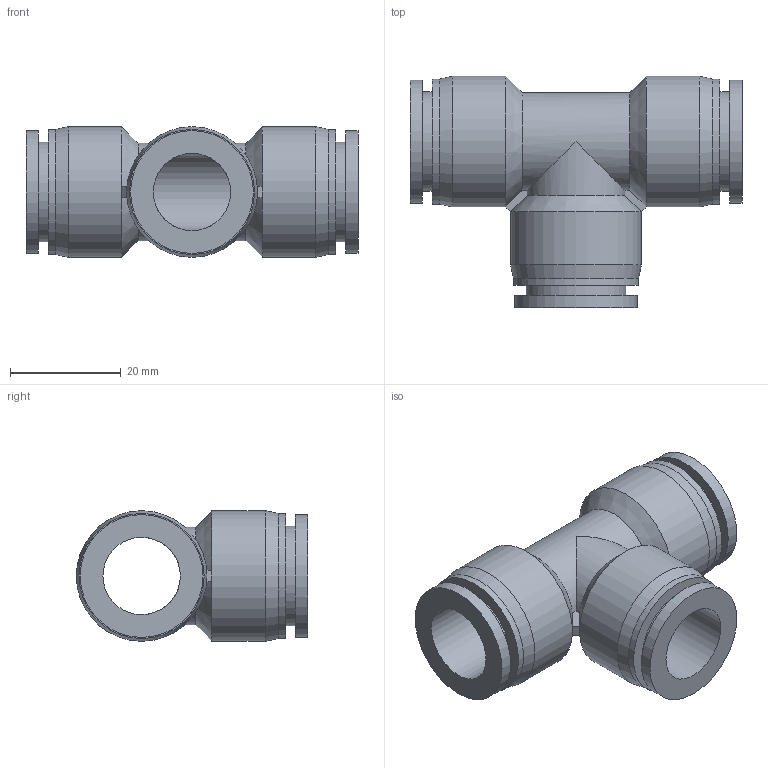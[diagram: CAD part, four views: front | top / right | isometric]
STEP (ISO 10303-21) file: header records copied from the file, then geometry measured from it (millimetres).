
FILE_DESCRIPTION((''),'2;1');
FILE_NAME('S:\UTecnico\ArchivioUT\Speciali Clienti\Speciali KONFIT\Plastica\RP\RP 55\RP550014.stp','2012-05-15T14:21:52',('UT5'),(''),'Autodesk Inventor 2012','Autodesk Inventor 2012','');
FILE_SCHEMA(('AUTOMOTIVE_DESIGN { 1 0 10303 214 1 1 1 1 }'));
Length unit declared in the file: millimetre
Products named in the file (1): RP550014
Bounding box: 60 x 41.8 x 23.6 mm (x, y, z)
Volume: 16525.6 mm3; surface area: 10666.9 mm2
Topology: 1 solids, 1 shells, 47 faces, 104 edges, 61 vertices
Faces by surface type: plane 23, cylinder 17, cone 7
Full cylindrical faces by diameter (mm): 14 x2, 17.7 x1, 18 x3, 22.2 x3, 22.6 x3, 23.6 x3
Entity records: 1232 total; most frequent: DIRECTION 218, CARTESIAN_POINT 195, ORIENTED_EDGE 164, AXIS2_PLACEMENT_3D 92, EDGE_CURVE 82, EDGE_LOOP 74, VERTEX_POINT 57, FACE_OUTER_BOUND 47
